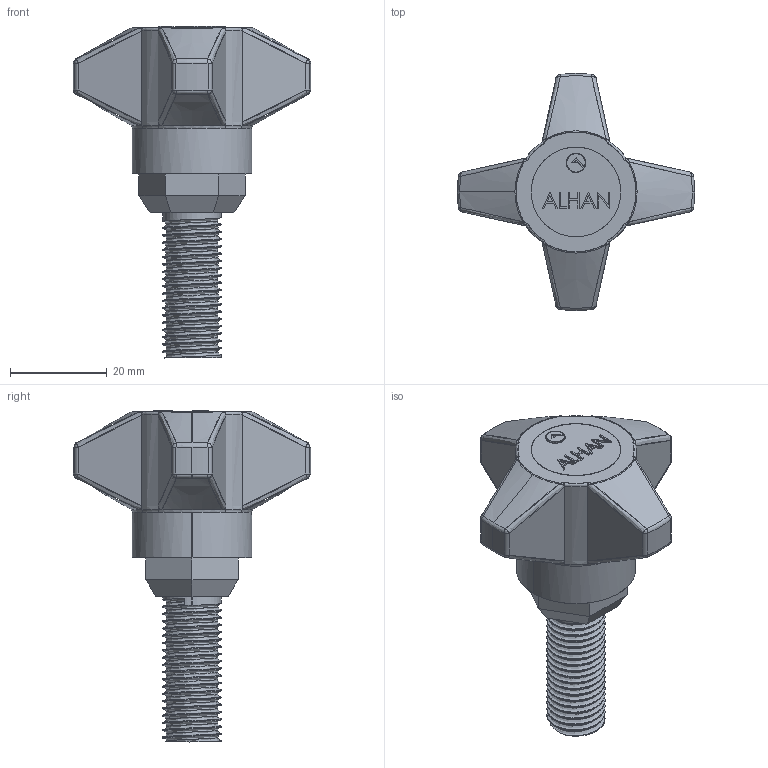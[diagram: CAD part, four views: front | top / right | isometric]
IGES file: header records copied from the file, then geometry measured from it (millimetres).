
Start section: SolidWorks IGES file using analytic representation for surfaces
Global section: file name: C:\Documents and Settings\URETIM3\Desktop\katalog 3 boyutlar tolgay\yeni katalog tolgay\B kataloðu\ERKEK TUTGAÇLAR\210 E12 030.IGS; native system: SolidWorks 2006 by SolidWorks Corporation; preprocessor: SolidWorks 2006 by SolidWorks Corporation; author: URETIM3; date: 061114.140617; units: millimetre
Bounding box: 49 x 48.95 x 68.55 mm (x, y, z)
Surface area: 7052.7 mm2 (no closed solid volume)
Topology: 0 solids, 0 shells, 240 faces, 3213 edges, 3213 vertices
Faces by surface type: bspline 150, revolution 90
